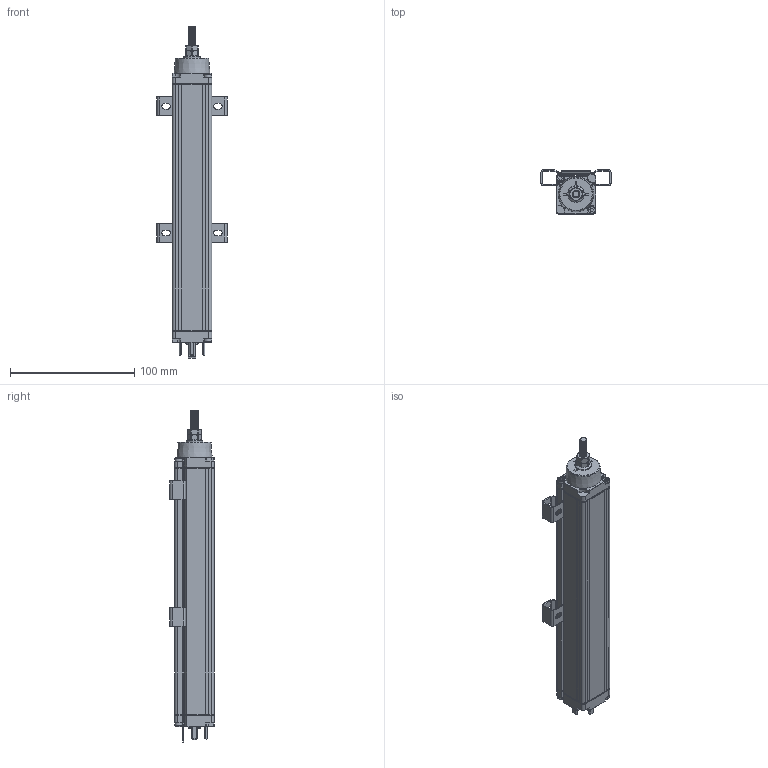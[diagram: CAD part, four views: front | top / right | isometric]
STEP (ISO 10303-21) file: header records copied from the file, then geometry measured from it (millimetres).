
FILE_DESCRIPTION(/* description */ (''),/* implementation_level */ '2;1');
FILE_NAME(/* name */ 'KTC1-150mm.stp',/* time_stamp */ '2020-12-09T13:24:38+08:00',/* author */ (''),/* organization */ (''),/* preprocessor_version */ 'ST-DEVELOPER v16',/* originating_system */ 'SIEMENS PLM Software NX 10.0',/* authorisation */ '');
FILE_SCHEMA (('AUTOMOTIVE_DESIGN { 1 0 10303 214 3 1 1 1 }'));
Length unit declared in the file: millimetre
Products named in the file (1): Admi4758A6F51rg4
Bounding box: 56.4 x 35.65 x 267.45 mm (x, y, z)
Volume: 85520.6 mm3; surface area: 96897.2 mm2
Topology: 22 solids, 22 shells, 1252 faces, 3406 edges, 2188 vertices
Faces by surface type: plane 739, cylinder 418, torus 34, sphere 30, cone 22, bspline 9
Full cylindrical faces by diameter (mm): 2.5 x8, 2.525 x2, 3 x6, 3.2 x1, 3.5 x6, 3.7 x2, 4 x1, 4.9 x23, 5.9 x6, 6 x1, 7.986 x2, 9.986 x2, 10 x1, 14.973 x2, 16.471 x2
Entity records: 49473 total; most frequent: CARTESIAN_POINT 18445, ORIENTED_EDGE 6420, DIRECTION 6318, EDGE_CURVE 3210, LINE 2218, VECTOR 2218, VERTEX_POINT 2114, AXIS2_PLACEMENT_3D 2050
